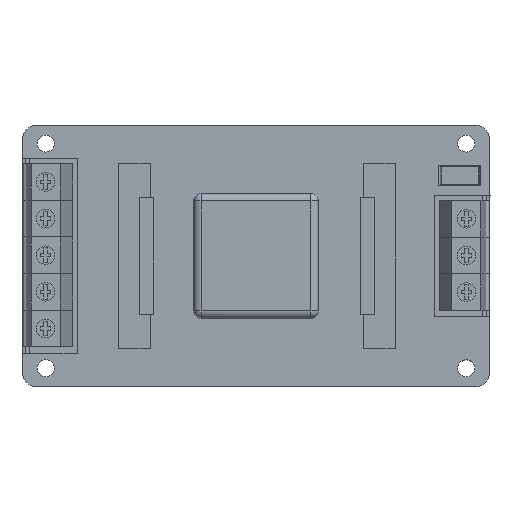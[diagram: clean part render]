
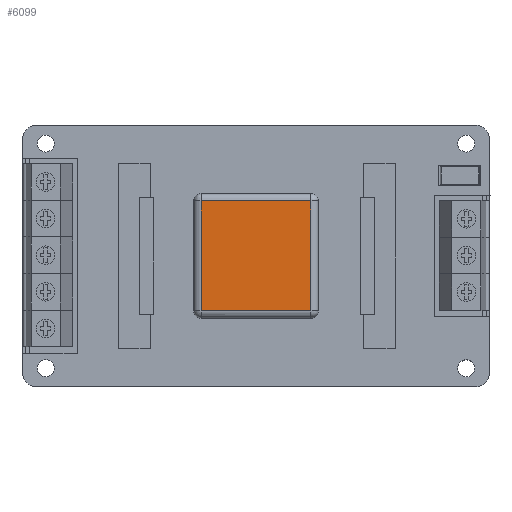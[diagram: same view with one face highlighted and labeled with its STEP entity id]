
A CAD part, top view. The second image highlights one B-rep face of the part: STEP entity #6099.
In plain terms, the highlighted planar face has unit normal (0, 0, 1).
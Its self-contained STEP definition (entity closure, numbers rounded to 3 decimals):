
#583=PLANE($,#6592);
#892=FACE_OUTER_BOUND($,#1302,.T.);
#1302=EDGE_LOOP($,(#5635,#5636,#5637,#5638));
#1981=LINE($,#9926,#2660);
#1985=LINE($,#9942,#2664);
#1987=LINE($,#9945,#2666);
#1989=LINE($,#9948,#2668);
#2660=VECTOR($,#8196,22.5);
#2664=VECTOR($,#8214,22.5);
#2666=VECTOR($,#8218,22.5);
#2668=VECTOR($,#8222,22.5);
#3209=VERTEX_POINT($,#9888);
#3214=VERTEX_POINT($,#9901);
#3219=VERTEX_POINT($,#9914);
#3224=VERTEX_POINT($,#9930);
#4021=EDGE_CURVE($,#3209,#3219,#1981,.T.);
#4029=EDGE_CURVE($,#3219,#3224,#1985,.T.);
#4031=EDGE_CURVE($,#3224,#3214,#1987,.T.);
#4033=EDGE_CURVE($,#3214,#3209,#1989,.T.);
#5635=ORIENTED_EDGE($,*,*,#4021,.F.);
#5636=ORIENTED_EDGE($,*,*,#4033,.F.);
#5637=ORIENTED_EDGE($,*,*,#4031,.F.);
#5638=ORIENTED_EDGE($,*,*,#4029,.F.);
#6099=ADVANCED_FACE($,(#892),#583,.T.);
#6592=AXIS2_PLACEMENT_3D($,#9954,#8230,#8231);
#8196=DIRECTION($,(1.,0.,0.));
#8214=DIRECTION($,(0.,-1.,0.));
#8218=DIRECTION($,(-1.,0.,0.));
#8222=DIRECTION($,(0.,1.,0.));
#8230=DIRECTION('center_axis',(0.,0.,1.));
#8231=DIRECTION('ref_axis',(1.,0.,0.));
#9888=CARTESIAN_POINT('',(1.5,24.,11.3));
#9901=CARTESIAN_POINT('',(1.5,1.5,11.3));
#9914=CARTESIAN_POINT('',(24.,24.,11.3));
#9926=CARTESIAN_POINT($,(19.125,24.,11.3));
#9930=CARTESIAN_POINT('',(24.,1.5,11.3));
#9942=CARTESIAN_POINT($,(24.,6.375,11.3));
#9945=CARTESIAN_POINT($,(6.375,1.5,11.3));
#9948=CARTESIAN_POINT($,(1.5,19.125,11.3));
#9954=CARTESIAN_POINT('Origin',(12.75,12.75,11.3));
